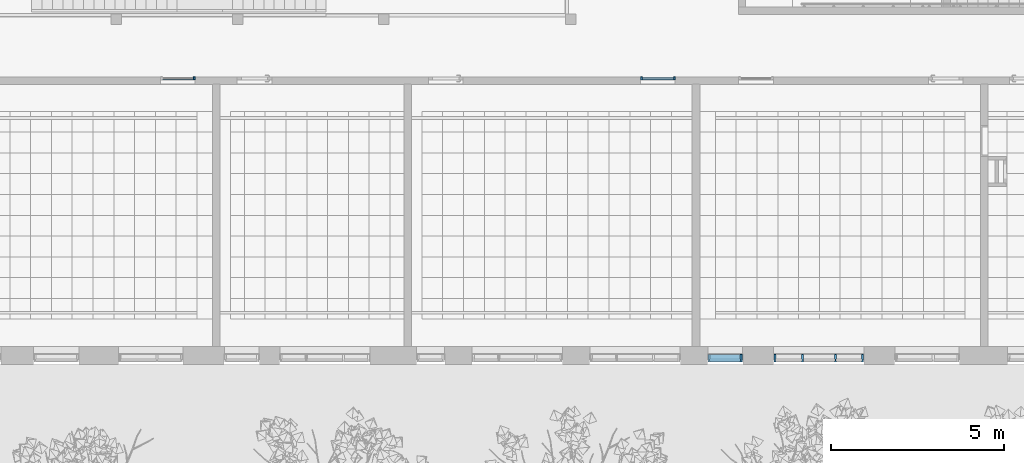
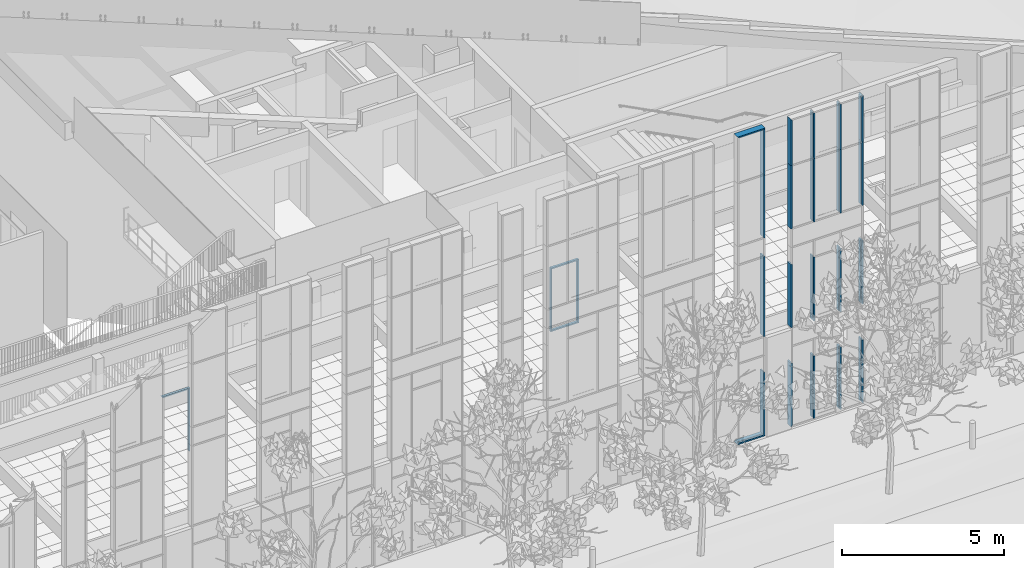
# One storey, part 25 of 246: 28 members, 4 elements without a shape of their own.
"""IFC2X3 building model written with IfcOpenShell, lengths in millimetres."""

from ifc_helpers import new_model, entity, si_unit, converted_unit, derived_unit, money_unit, direction, frame, origin_with_axes, place, context, subcontext, project, spatial, faceted_brep, source, transform, mapped, material, type_object, element, aggregate, save


model = new_model("IFC2X3")

# Units and contexts
model_context = context("Model", 3, precision=0.01, world=origin_with_axes(), true_north=direction((0.0, 1.0)))
body_context = subcontext(model_context, "Body", "Model", "MODEL_VIEW")
ifc_project = project(units=[si_unit("LENGTHUNIT", "METRE", prefix="MILLI"), si_unit("AREAUNIT", "SQUARE_METRE"), si_unit("VOLUMEUNIT", "CUBIC_METRE"), converted_unit("PLANEANGLEUNIT", "DEGREE", entity("IfcPlaneAngleMeasure", 0.0174532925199), si_unit("PLANEANGLEUNIT", "RADIAN"), dimensions=[0, 0, 0, 0, 0, 0, 0]), si_unit("SOLIDANGLEUNIT", "STERADIAN"), money_unit("EUR"), converted_unit("TIMEUNIT", "Year", entity("IfcTimeMeasure", 31556926.0), si_unit("TIMEUNIT", "SECOND"), dimensions=[0, 0, 1, 0, 0, 0, 0]), si_unit("MASSUNIT", "GRAM", prefix="KILO"), si_unit("THERMODYNAMICTEMPERATUREUNIT", "DEGREE_CELSIUS"), si_unit("LUMINOUSINTENSITYUNIT", "LUMEN"), si_unit("ENERGYUNIT", "JOULE", prefix="MEGA"), derived_unit("THERMALCONDUCTANCEUNIT", [(si_unit("POWERUNIT", "WATT"), 1), (si_unit("LENGTHUNIT", "METRE"), -1), (si_unit("THERMODYNAMICTEMPERATUREUNIT", "KELVIN"), -1)]), derived_unit("SPECIFICHEATCAPACITYUNIT", [(si_unit("ENERGYUNIT", "JOULE"), 1), (si_unit("MASSUNIT", "GRAM", prefix="KILO"), -1), (si_unit("THERMODYNAMICTEMPERATUREUNIT", "KELVIN"), -1)]), derived_unit("MASSDENSITYUNIT", [(si_unit("MASSUNIT", "GRAM", prefix="KILO"), 1), (si_unit("VOLUMEUNIT", "CUBIC_METRE"), -1)])], contexts=[model_context])

# Site, building, storey
site_placement = place(None, origin_with_axes())
site = spatial("IfcSite", under=ifc_project, at=site_placement, Name="L.Koidula tn 11b", CompositionType="ELEMENT")
building_placement = place(site_placement, origin_with_axes())
building = spatial("IfcBuilding", under=site, at=building_placement, Name="Rakvere Riigigümnaasium", CompositionType="ELEMENT")
storey_placement = place(building_placement, origin_with_axes())
storey = spatial("IfcBuildingStorey", under=building, at=storey_placement, Name="1.korrus 0,00", CompositionType="ELEMENT", Elevation=0.0)

# Curtain wall, member
curtain_wall_type = type_object("IfcCurtainWallType", Name="Curtain Wall Type", PredefinedType="NOTDEFINED")
curtain_wall_1_placement = place(storey_placement, frame((75600.000125, 5111.45334637, -1.61944652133e-05), z_axis=(0.0, 0.0, 1.0), x_axis=(1.0, 0.0, 0.0)))
curtain_wall_1 = element("IfcCurtainWall", 1, at=curtain_wall_1_placement, inside=storey, type_object=curtain_wall_type, Name="KLF-05-4B")
ifc_material_1 = material(Name="Alumiiniumprofiil (RAL 7021)")
member_type_1 = type_object("IfcMemberType", Name="Boundary Frame 50 x 222", PredefinedType="MULLION")
shared_shape_1 = source(origin_with_axes(), body_context, "Body", "Brep", [
    faceted_brep([(37.0, -32.5, 2375.00000025), (37.0, 32.5, 2375.00000025), (50.0, 32.5, 2375.00000025), (50.0, 53.0, 2375.00000025), (0.0, 53.0, 2375.00000025), (0.0, -169.0, 2375.00000025), (50.0, -169.0, 2375.00000025), (50.0, -32.5, 2375.00000025), (37.0, -32.5, -2.4712543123e-07), (37.0, 32.5, -2.4712543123e-07), (50.0, 32.5, -2.47125653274e-07), (50.0, 53.0, -2.47125653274e-07), (0.0, 53.0, -2.47125653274e-07), (0.0, -169.0, -2.47125653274e-07), (50.0, -169.0, -2.47125653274e-07), (50.0, -32.5, -2.47125653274e-07)], [[[0, 1, 2, 3, 4, 5, 6, 7]], [[1, 0, 8, 9]], [[10, 2, 1, 9]], [[2, 10, 11, 3]], [[12, 4, 3, 11]], [[13, 5, 4, 12]], [[14, 6, 5, 13]], [[15, 7, 6, 14]], [[0, 7, 15, 8]], [[8, 15, 14, 13, 12, 11, 10, 9]]]),
])
member_1_placement = place(curtain_wall_1_placement, frame((490.000170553, 0.0, 7465.0), z_axis=(-3.60066379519e-08, 0.0, 1.0), x_axis=(-1.0, 0.0, -3.60066379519e-08)))
member_1 = element("IfcMember", 2, at=member_1_placement, type_object=member_type_1, material=ifc_material_1, Name="KLF-11", ObjectType="MULLION", context=body_context, shape_type="MappedRepresentation", body=[
    mapped(shared_shape_1, transform((0.0, 0.0, 0.0))),
])

# Curtain wall, members
curtain_wall_2_placement = place(storey_placement, frame((78309.9973345, 5111.43278481, -1.61944633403e-05), z_axis=(0.0, 0.0, 1.0), x_axis=(1.0, 0.0, 0.0)))
curtain_wall_2 = element("IfcCurtainWall", 3, at=curtain_wall_2_placement, inside=storey, type_object=curtain_wall_type, Name="KLF-05-3A")
member_2_placement = place(curtain_wall_2_placement, frame((1279.99946018, -0.0202452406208, 7465.0), z_axis=(2.10851387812e-09, 0.0, 1.0), x_axis=(-0.999999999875, 1.58166009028e-05, 2.10851387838e-09)))
member_2 = element("IfcMember", 4, at=member_2_placement, type_object=member_type_1, material=ifc_material_1, Name="KLF-05-1A-Profiilid", ObjectType="MULLION", context=body_context, shape_type="MappedRepresentation", body=[
    mapped(shared_shape_1, transform((0.0, 0.0, 0.0))),
])
member_3_placement = place(curtain_wall_2_placement, frame((1279.99946018, -0.0202452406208, 3745.0), z_axis=(0.0, 0.0, 1.0), x_axis=(-0.999999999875, 1.58166009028e-05, 0.0)))
member_3 = element("IfcMember", 5, at=member_3_placement, type_object=member_type_1, material=ifc_material_1, Name="KLF-05-8A-Profiilid", ObjectType="MULLION", context=body_context, shape_type="MappedRepresentation", body=[
    mapped(shared_shape_1, transform((0.0, 0.0, 0.0))),
])
shared_shape_2 = source(origin_with_axes(), body_context, "Body", "Brep", [
    faceted_brep([(-37.0, -32.5, 2375.0), (-50.0, -32.5, 2375.0), (-50.0, -169.0, 2375.0), (0.0, -169.0, 2375.0), (0.0, 53.0, 2375.0), (-50.0, 53.0, 2375.0), (-50.0, 32.5, 2375.0), (-37.0, 32.5, 2375.0), (-37.0, -32.5, 0.0), (-50.0, -32.5, 0.0), (-50.0, -169.0, 0.0), (0.0, -169.0, 0.0), (0.0, 53.0, 0.0), (-50.0, 53.0, 0.0), (-50.0, 32.5, 0.0), (-37.0, 32.5, 0.0)], [[[0, 1, 2, 3, 4, 5, 6, 7]], [[0, 8, 9, 1]], [[9, 10, 2, 1]], [[10, 11, 3, 2]], [[11, 12, 4, 3]], [[12, 13, 5, 4]], [[6, 5, 13, 14]], [[14, 15, 7, 6]], [[7, 15, 8, 0]], [[8, 15, 14, 13, 12, 11, 10, 9]]]),
])
member_4_placement = place(curtain_wall_2_placement, frame((-1299.99999984, 0.0205615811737, 3745.0), z_axis=(0.0, 0.0, 1.0), x_axis=(-0.999999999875, 1.58166009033e-05, 0.0)))
member_4 = element("IfcMember", 6, at=member_4_placement, type_object=member_type_1, material=ifc_material_1, Name="KLF-05-0A-Profiilid", ObjectType="MULLION", context=body_context, shape_type="MappedRepresentation", body=[
    mapped(shared_shape_2, transform((0.0, 0.0, 0.0))),
])
member_5_placement = place(curtain_wall_2_placement, frame((-1299.99999984, 0.0205615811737, 7465.0), z_axis=(0.0, 0.0, 1.0), x_axis=(-0.999999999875, 1.58166009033e-05, 0.0)))
member_5 = element("IfcMember", 7, at=member_5_placement, type_object=member_type_1, material=ifc_material_1, Name="KLF-05-7A-Profiilid", ObjectType="MULLION", context=body_context, shape_type="MappedRepresentation", body=[
    mapped(shared_shape_2, transform((0.0, 0.0, 0.0))),
])

# Member
shared_shape_3 = source(origin_with_axes(), body_context, "Body", "Brep", [
    faceted_brep([(37.0, -32.5, 1712.99983191), (37.0, 32.5, 1712.99983191), (50.0, 32.5, 1699.99983191), (50.0, 53.0, 1699.99983191), (0.0, 53.0, 1749.99983191), (0.0, -169.0, 1749.99983191), (50.0, -169.0, 1699.99983191), (50.0, -32.5, 1699.99983191), (37.0, -32.5, -2.47125875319e-07), (37.0, 32.5, -2.47125875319e-07), (50.0, 32.5, -2.47125764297e-07), (50.0, 53.0, -2.47125764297e-07), (0.0, 53.0, -2.47125764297e-07), (0.0, -169.0, -2.47125764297e-07), (50.0, -169.0, -2.47125764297e-07), (50.0, -32.5, -2.47125764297e-07)], [[[0, 1, 2, 3, 4, 5, 6, 7]], [[1, 0, 8, 9]], [[10, 2, 1, 9]], [[2, 10, 11, 3]], [[12, 4, 3, 11]], [[13, 5, 4, 12]], [[14, 6, 5, 13]], [[15, 7, 6, 14]], [[0, 7, 15, 8]], [[8, 15, 14, 13, 12, 11, 10, 9]]]),
])
member_6_placement = place(curtain_wall_1_placement, frame((490.000085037, 0.0, 9840.0), z_axis=(3.63216120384e-08, 0.0, 1.0), x_axis=(-1.0, 0.0, 3.63216120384e-08)))
member_6 = element("IfcMember", 8, at=member_6_placement, type_object=member_type_1, material=ifc_material_1, Name="KLF-12", ObjectType="MULLION", context=body_context, shape_type="MappedRepresentation", body=[
    mapped(shared_shape_3, transform((0.0, 0.0, 0.0))),
])

member_7_placement = place(curtain_wall_2_placement, frame((1279.99946519, -0.0202452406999, 9840.0), z_axis=(3.89462512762e-08, 0.0, 1.0), x_axis=(-0.999999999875, 1.58166009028e-05, 3.89462512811e-08)))
member_7 = element("IfcMember", 9, at=member_7_placement, type_object=member_type_1, material=ifc_material_1, Name="KLF-05-2A-Profiilid", ObjectType="MULLION", context=body_context, shape_type="MappedRepresentation", body=[
    mapped(shared_shape_3, transform((0.0, 0.0, 0.0))),
])

member_type_2 = type_object("IfcMemberType", Name="Mullion Frame 50 x 222", PredefinedType="MULLION")
shared_shape_4 = source(origin_with_axes(), body_context, "Body", "Brep", [
    faceted_brep([(-12.0, -32.5, 2375.0), (-25.0, -32.5, 2375.0), (-25.0, -169.0, 2375.0), (25.0, -169.0, 2375.0), (25.0, -32.5, 2375.0), (12.0, -32.5, 2375.0), (12.0, 32.5, 2375.0), (25.0, 32.5, 2375.0), (25.0, 53.0, 2375.0), (-25.0, 53.0, 2375.0), (-25.0, 32.5, 2375.0), (-12.0, 32.5, 2375.0), (-12.0, -32.5, -25.0), (-25.0, -32.5, -25.0), (-25.0, -169.0, -25.0), (25.0, -169.0, -25.0), (25.0, -32.5, -25.0), (12.0, -32.5, -25.0), (12.0, 32.5, -25.0), (25.0, 32.5, -25.0), (25.0, 53.0, -25.0), (-25.0, 53.0, -25.0), (-25.0, 32.5, -25.0), (-12.0, 32.5, -25.0)], [[[0, 1, 2, 3, 4, 5, 6, 7, 8, 9, 10, 11]], [[1, 0, 12, 13]], [[1, 13, 14, 2]], [[3, 2, 14, 15]], [[4, 3, 15, 16]], [[4, 16, 17, 5]], [[5, 17, 18, 6]], [[7, 6, 18, 19]], [[19, 20, 8, 7]], [[9, 8, 20, 21]], [[22, 10, 9, 21]], [[11, 10, 22, 23]], [[0, 11, 23, 12]], [[23, 22, 21, 20, 19, 18, 17, 16, 15, 14, 13, 12]]]),
])
member_8_placement = place(curtain_wall_2_placement, frame((474.999999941, -0.00751288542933, 7465.0), z_axis=(0.0, 0.0, 1.0), x_axis=(-0.999999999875, 1.58166009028e-05, 0.0)))
member_8 = element("IfcMember", 10, at=member_8_placement, type_object=member_type_2, material=ifc_material_1, Name="KLF-05-4A-Profiilid", ObjectType="MULLION", context=body_context, shape_type="MappedRepresentation", body=[
    mapped(shared_shape_4, transform((0.0, 0.0, 0.0))),
])

member_9_placement = place(curtain_wall_2_placement, frame((-474.999999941, 0.00751288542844, 3745.0), z_axis=(0.0, 0.0, 1.0), x_axis=(-0.999999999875, 1.58166009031e-05, 0.0)))
member_9 = element("IfcMember", 11, at=member_9_placement, type_object=member_type_2, material=ifc_material_1, Name="KLF-05-3A-Profiilid", ObjectType="MULLION", context=body_context, shape_type="MappedRepresentation", body=[
    mapped(shared_shape_4, transform((0.0, 0.0, 0.0))),
])

member_10_placement = place(curtain_wall_2_placement, frame((-474.999999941, 0.00751288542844, 7465.0), z_axis=(0.0, 0.0, 1.0), x_axis=(-0.999999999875, 1.58166009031e-05, 0.0)))
member_10 = element("IfcMember", 12, at=member_10_placement, type_object=member_type_2, material=ifc_material_1, Name="KLF-05-3A-Profiilid", ObjectType="MULLION", context=body_context, shape_type="MappedRepresentation", body=[
    mapped(shared_shape_4, transform((0.0, 0.0, 0.0))),
])

member_11_placement = place(curtain_wall_2_placement, frame((474.999999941, -0.00751288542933, 3745.0), z_axis=(0.0, 0.0, 1.0), x_axis=(-0.999999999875, 1.58166009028e-05, 0.0)))
member_11 = element("IfcMember", 13, at=member_11_placement, type_object=member_type_2, material=ifc_material_1, Name="KLF-05-3A-Profiilid", ObjectType="MULLION", context=body_context, shape_type="MappedRepresentation", body=[
    mapped(shared_shape_4, transform((0.0, 0.0, 0.0))),
])

shared_shape_5 = source(origin_with_axes(), body_context, "Body", "Brep", [
    faceted_brep([(37.0, -32.5, 2400.0), (37.0, 32.5, 2400.0), (50.0, 32.5, 2400.0), (50.0, 53.0, 2400.0), (0.0, 53.0, 2400.0), (0.0, -169.0, 2400.0), (50.0, -169.0, 2400.0), (50.0, -32.5, 2400.0), (37.0, -32.5, 37.0), (37.0, 32.5, 37.0), (50.0, 32.5, 50.0), (50.0, 53.0, 50.0), (0.0, 53.0, 0.0), (0.0, -169.0, 0.0), (50.0, -169.0, 50.0), (50.0, -32.5, 50.0)], [[[0, 1, 2, 3, 4, 5, 6, 7]], [[1, 0, 8, 9]], [[10, 2, 1, 9]], [[2, 10, 11, 3]], [[4, 3, 11, 12]], [[5, 4, 12, 13]], [[6, 5, 13, 14]], [[15, 7, 6, 14]], [[0, 7, 15, 8]], [[8, 15, 14, 13, 12, 11, 10, 9]]]),
])
member_12_placement = place(curtain_wall_1_placement, frame((490.000170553, 0.0, 0.0), z_axis=(0.0, 0.0, 1.0), x_axis=(-1.0, 0.0, 0.0)))
member_12 = element("IfcMember", 14, at=member_12_placement, type_object=member_type_1, material=ifc_material_1, Name="KLF-06", ObjectType="MULLION", context=body_context, shape_type="MappedRepresentation", body=[
    mapped(shared_shape_5, transform((0.0, 0.0, 0.0))),
])

member_13_placement = place(curtain_wall_2_placement, frame((1279.99946018, -0.0202452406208, 0.0), z_axis=(0.0, 0.0, 1.0), x_axis=(-0.999999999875, 1.58166009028e-05, 0.0)))
member_13 = element("IfcMember", 15, at=member_13_placement, type_object=member_type_1, material=ifc_material_1, Name="KLF-05-5A-Profiilid", ObjectType="MULLION", context=body_context, shape_type="MappedRepresentation", body=[
    mapped(shared_shape_5, transform((0.0, 0.0, 0.0))),
])

shared_shape_6 = source(origin_with_axes(), body_context, "Body", "Brep", [
    faceted_brep([(-12.0, -32.5, 1699.99983191), (-25.0, -32.5, 1699.99983191), (-25.0, -169.0, 1699.99983191), (25.0, -169.0, 1699.99983191), (25.0, -32.5, 1699.99983191), (12.0, -32.5, 1699.99983191), (12.0, 32.5, 1699.99983191), (25.0, 32.5, 1699.99983191), (25.0, 53.0, 1699.99983191), (-25.0, 53.0, 1699.99983191), (-25.0, 32.5, 1699.99983191), (-12.0, 32.5, 1699.99983191), (-12.0, -32.5, 0.0), (-25.0, -32.5, 0.0), (-25.0, -169.0, 0.0), (25.0, -169.0, 0.0), (25.0, -32.5, 0.0), (12.0, -32.5, 0.0), (12.0, 32.5, 0.0), (25.0, 32.5, 0.0), (25.0, 53.0, 0.0), (-25.0, 53.0, 0.0), (-25.0, 32.5, 0.0), (-12.0, 32.5, 0.0)], [[[0, 1, 2, 3, 4, 5, 6, 7, 8, 9, 10, 11]], [[1, 0, 12, 13]], [[1, 13, 14, 2]], [[3, 2, 14, 15]], [[4, 3, 15, 16]], [[4, 16, 17, 5]], [[5, 17, 18, 6]], [[7, 6, 18, 19]], [[19, 20, 8, 7]], [[9, 8, 20, 21]], [[22, 10, 9, 21]], [[11, 10, 22, 23]], [[0, 11, 23, 12]], [[23, 22, 21, 20, 19, 18, 17, 16, 15, 14, 13, 12]]]),
])
member_14_placement = place(curtain_wall_2_placement, frame((-474.999999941, 0.00751288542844, 9840.0), z_axis=(0.0, 0.0, 1.0), x_axis=(-0.999999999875, 1.58166009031e-05, 0.0)))
member_14 = element("IfcMember", 16, at=member_14_placement, type_object=member_type_2, material=ifc_material_1, Name="KLF-05-9A-Profiilid", ObjectType="MULLION", context=body_context, shape_type="MappedRepresentation", body=[
    mapped(shared_shape_6, transform((0.0, 0.0, 0.0))),
])

member_15_placement = place(curtain_wall_2_placement, frame((474.999999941, -0.00751288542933, 9840.0), z_axis=(0.0, 0.0, 1.0), x_axis=(-0.999999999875, 1.58166009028e-05, 0.0)))
member_15 = element("IfcMember", 17, at=member_15_placement, type_object=member_type_2, material=ifc_material_1, Name="KLF-05-0A-Profiilid", ObjectType="MULLION", context=body_context, shape_type="MappedRepresentation", body=[
    mapped(shared_shape_6, transform((0.0, 0.0, 0.0))),
])

shared_shape_7 = source(origin_with_axes(), body_context, "Body", "Brep", [
    faceted_brep([(-37.0, -32.5, 2400.0), (-50.0, -32.5, 2400.0), (-50.0, -169.0, 2400.0), (0.0, -169.0, 2400.0), (0.0, 53.0, 2400.0), (-50.0, 53.0, 2400.0), (-50.0, 32.5, 2400.0), (-37.0, 32.5, 2400.0), (-37.0, -32.5, 37.0), (-50.0, -32.5, 50.0), (-50.0, -169.0, 50.0), (0.0, -169.0, 0.0), (0.0, 53.0, 0.0), (-50.0, 53.0, 50.0), (-50.0, 32.5, 50.0), (-37.0, 32.5, 37.0)], [[[0, 1, 2, 3, 4, 5, 6, 7]], [[0, 8, 9, 1]], [[9, 10, 2, 1]], [[2, 10, 11, 3]], [[3, 11, 12, 4]], [[4, 12, 13, 5]], [[6, 5, 13, 14]], [[14, 15, 7, 6]], [[7, 15, 8, 0]], [[8, 15, 14, 13, 12, 11, 10, 9]]]),
])
member_16_placement = place(curtain_wall_2_placement, frame((-1299.99999984, 0.0205615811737, 0.0), z_axis=(0.0, 0.0, 1.0), x_axis=(-0.999999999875, 1.58166009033e-05, 0.0)))
member_16 = element("IfcMember", 18, at=member_16_placement, type_object=member_type_1, material=ifc_material_1, Name="KLF-05-1A-Profiilid", ObjectType="MULLION", context=body_context, shape_type="MappedRepresentation", body=[
    mapped(shared_shape_7, transform((0.0, 0.0, 0.0))),
])

shared_shape_8 = source(origin_with_axes(), body_context, "Body", "Brep", [
    faceted_brep([(-37.0, -32.5, 1712.99983191), (-50.0, -32.5, 1699.99983191), (-50.0, -169.0, 1699.99983191), (0.0, -169.0, 1749.99983191), (0.0, 53.0, 1749.99983191), (-50.0, 53.0, 1699.99983191), (-50.0, 32.5, 1699.99983191), (-37.0, 32.5, 1712.99983191), (-37.0, -32.5, 0.0), (-50.0, -32.5, 0.0), (-50.0, -169.0, 0.0), (0.0, -169.0, 0.0), (0.0, 53.0, 0.0), (-50.0, 53.0, 0.0), (-50.0, 32.5, 0.0), (-37.0, 32.5, 0.0)], [[[0, 1, 2, 3, 4, 5, 6, 7]], [[0, 8, 9, 1]], [[9, 10, 2, 1]], [[10, 11, 3, 2]], [[11, 12, 4, 3]], [[12, 13, 5, 4]], [[6, 5, 13, 14]], [[14, 15, 7, 6]], [[7, 15, 8, 0]], [[8, 15, 14, 13, 12, 11, 10, 9]]]),
])
member_17_placement = place(curtain_wall_2_placement, frame((-1299.99999984, 0.0205615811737, 9840.0), z_axis=(0.0, 0.0, 1.0), x_axis=(-0.999999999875, 1.58166009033e-05, 0.0)))
member_17 = element("IfcMember", 19, at=member_17_placement, type_object=member_type_1, material=ifc_material_1, Name="KLF-05-6A-Profiilid", ObjectType="MULLION", context=body_context, shape_type="MappedRepresentation", body=[
    mapped(shared_shape_8, transform((0.0, 0.0, 0.0))),
])

shared_shape_9 = source(origin_with_axes(), body_context, "Body", "Brep", [
    faceted_brep([(37.0, -32.5, 3015.0), (37.0, 32.5, 3015.0), (50.0, 32.5, 3015.0), (50.0, 53.0, 3015.0), (0.0, 53.0, 3015.0), (0.0, -169.0, 3015.0), (50.0, -169.0, 3015.0), (50.0, -32.5, 3015.0), (37.0, -32.5, 0.0), (37.0, 32.5, 0.0), (50.0, 32.5, 0.0), (50.0, 53.0, 0.0), (0.0, 53.0, 0.0), (0.0, -169.0, 0.0), (50.0, -169.0, 0.0), (50.0, -32.5, 0.0)], [[[0, 1, 2, 3, 4, 5, 6, 7]], [[1, 0, 8, 9]], [[10, 2, 1, 9]], [[2, 10, 11, 3]], [[12, 4, 3, 11]], [[13, 5, 4, 12]], [[14, 6, 5, 13]], [[15, 7, 6, 14]], [[0, 7, 15, 8]], [[8, 15, 14, 13, 12, 11, 10, 9]]]),
])
member_18_placement = place(curtain_wall_1_placement, frame((490.000170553, 0.0, 3745.0), z_axis=(0.0, 0.0, 1.0), x_axis=(-1.0, 0.0, 0.0)))
member_18 = element("IfcMember", 20, at=member_18_placement, type_object=member_type_1, material=ifc_material_1, Name="KLF-09", ObjectType="MULLION", context=body_context, shape_type="MappedRepresentation", body=[
    mapped(shared_shape_9, transform((0.0, 0.0, 0.0))),
])

shared_shape_10 = source(origin_with_axes(), body_context, "Body", "Brep", [
    faceted_brep([(-12.0, -32.5, 2400.0), (-25.0, -32.5, 2400.0), (-25.0, -169.0, 2400.0), (25.0, -169.0, 2400.0), (25.0, -32.5, 2400.0), (12.0, -32.5, 2400.0), (12.0, 32.5, 2400.0), (25.0, 32.5, 2400.0), (25.0, 53.0, 2400.0), (-25.0, 53.0, 2400.0), (-25.0, 32.5, 2400.0), (-12.0, 32.5, 2400.0), (-12.0, -32.5, 50.0), (-25.0, -32.5, 50.0), (-25.0, -169.0, 50.0), (25.0, -169.0, 50.0), (25.0, -32.5, 50.0), (12.0, -32.5, 50.0), (12.0, 32.5, 50.0), (25.0, 32.5, 50.0), (25.0, 53.0, 50.0), (-25.0, 53.0, 50.0), (-25.0, 32.5, 50.0), (-12.0, 32.5, 50.0)], [[[0, 1, 2, 3, 4, 5, 6, 7, 8, 9, 10, 11]], [[1, 0, 12, 13]], [[1, 13, 14, 2]], [[2, 14, 15, 3]], [[4, 3, 15, 16]], [[4, 16, 17, 5]], [[5, 17, 18, 6]], [[7, 6, 18, 19]], [[19, 20, 8, 7]], [[8, 20, 21, 9]], [[22, 10, 9, 21]], [[11, 10, 22, 23]], [[0, 11, 23, 12]], [[23, 22, 21, 20, 19, 18, 17, 16, 15, 14, 13, 12]]]),
])
member_19_placement = place(curtain_wall_2_placement, frame((-474.999999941, 0.00751288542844, 0.0), z_axis=(0.0, 0.0, 1.0), x_axis=(-0.999999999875, 1.58166009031e-05, 0.0)))
member_19 = element("IfcMember", 21, at=member_19_placement, type_object=member_type_2, material=ifc_material_1, Name="KLF-05-3A-Profiilid", ObjectType="MULLION", context=body_context, shape_type="MappedRepresentation", body=[
    mapped(shared_shape_10, transform((0.0, 0.0, 0.0))),
])

member_20_placement = place(curtain_wall_2_placement, frame((474.999999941, -0.00751288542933, 0.0), z_axis=(0.0, 0.0, 1.0), x_axis=(-0.999999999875, 1.58166009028e-05, 0.0)))
member_20 = element("IfcMember", 22, at=member_20_placement, type_object=member_type_2, material=ifc_material_1, Name="KLF-05-3A-Profiilid", ObjectType="MULLION", context=body_context, shape_type="MappedRepresentation", body=[
    mapped(shared_shape_10, transform((0.0, 0.0, 0.0))),
])

aggregate(curtain_wall_2, [member_19, member_20, member_8, member_9, member_10, member_11, member_16, member_4, member_5, member_2, member_3, member_13, member_17, member_14, member_15, member_7])

# Curtain wall, member
curtain_wall_3_placement = place(storey_placement, frame((59810.0162357, 13240.4508952, 0.0), z_axis=(0.0, 0.0, 1.0), x_axis=(1.0, 0.0, 0.0)))
curtain_wall_3 = element("IfcCurtainWall", 23, at=curtain_wall_3_placement, inside=storey, type_object=curtain_wall_type, Name="SKLF-07")
ifc_material_2 = material(Name="Klaasvill")
member_type_3 = type_object("IfcMemberType", Name="Boundary Frame 50 x 80", PredefinedType="MULLION")
shared_shape_11 = source(origin_with_axes(), body_context, "Body", "Brep", [
    faceted_brep([(-50.0, 40.0, 50.0), (-50.0, -40.0, 50.0), (-50.0, -40.0, 950.000004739), (-50.0, 40.0, 950.000004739), (0.0, 40.0, 0.0), (0.0, -40.0, 0.0), (0.0, -40.0, 1000.00000474), (0.0, 40.0, 1000.00000474)], [[[0, 1, 2, 3]], [[1, 0, 4, 5]], [[1, 5, 6, 2]], [[2, 6, 7, 3]], [[4, 0, 3, 7]], [[5, 4, 7, 6]]]),
])
member_21_placement = place(curtain_wall_3_placement, frame((500.00000237, 0.0, 2400.0), z_axis=(-1.0, 0.0, 0.0), x_axis=(0.0, 0.0, -1.0)))
member_21 = element("IfcMember", 24, at=member_21_placement, type_object=member_type_3, material=ifc_material_2, Name="SKLF-28-raam", ObjectType="MULLION", context=body_context, shape_type="MappedRepresentation", body=[
    mapped(shared_shape_11, transform((0.0, 0.0, 0.0), x_axis=(-1.0, 0.0, 0.0), y_axis=(0.0, -1.0, 0.0), z_axis=(0.0, 0.0, 1.0))),
])

# Curtain wall, members
curtain_wall_4_placement = place(storey_placement, frame((73660.0150839, 13240.4508952, 0.0), z_axis=(0.0, 0.0, 1.0), x_axis=(1.0, 0.0, 0.0)))
curtain_wall_4 = element("IfcCurtainWall", 25, at=curtain_wall_4_placement, inside=storey, type_object=curtain_wall_type, Name="SKLF-08")
member_22_placement = place(curtain_wall_4_placement, frame((-500.00000237, 0.0, 0.0), z_axis=(1.0, 0.0, 0.0), x_axis=(0.0, 0.0, 1.0)))
member_22 = element("IfcMember", 26, at=member_22_placement, type_object=member_type_3, material=ifc_material_2, Name="SKLF-26-raam", ObjectType="MULLION", context=body_context, shape_type="MappedRepresentation", body=[
    mapped(shared_shape_11, transform((0.0, 0.0, 0.0), x_axis=(-1.0, 0.0, 0.0), y_axis=(0.0, -1.0, 0.0), z_axis=(0.0, 0.0, 1.0))),
])
member_23_placement = place(curtain_wall_4_placement, frame((500.00000237, 0.0, 2400.0), z_axis=(-1.0, 0.0, 0.0), x_axis=(0.0, 0.0, -1.0)))
member_23 = element("IfcMember", 27, at=member_23_placement, type_object=member_type_3, material=ifc_material_2, Name="SKLF-28-raam", ObjectType="MULLION", context=body_context, shape_type="MappedRepresentation", body=[
    mapped(shared_shape_11, transform((0.0, 0.0, 0.0), x_axis=(-1.0, 0.0, 0.0), y_axis=(0.0, -1.0, 0.0), z_axis=(0.0, 0.0, 1.0))),
])

# Member
shared_shape_12 = source(origin_with_axes(), body_context, "Body", "Brep", [
    faceted_brep([(-50.0, 40.0, 50.0), (-50.0, -40.0, 50.0), (-50.0, -40.0, 2350.0), (-50.0, 40.0, 2350.0), (0.0, 40.0, 0.0), (0.0, -40.0, 0.0), (0.0, -40.0, 2400.0), (0.0, 40.0, 2400.0)], [[[0, 1, 2, 3]], [[1, 0, 4, 5]], [[1, 5, 6, 2]], [[2, 6, 7, 3]], [[4, 0, 3, 7]], [[5, 4, 7, 6]]]),
])
member_24_placement = place(curtain_wall_3_placement, frame((500.00000237, 0.0, 0.0), z_axis=(0.0, 0.0, 1.0), x_axis=(-1.0, 0.0, 0.0)))
member_24 = element("IfcMember", 28, at=member_24_placement, type_object=member_type_3, material=ifc_material_2, Name="SKLF-27-raam", ObjectType="MULLION", context=body_context, shape_type="MappedRepresentation", body=[
    mapped(shared_shape_12, transform((0.0, 0.0, 0.0), x_axis=(-1.0, 0.0, 0.0), y_axis=(0.0, -1.0, 0.0), z_axis=(0.0, 0.0, 1.0))),
])

aggregate(curtain_wall_3, [member_21, member_24])

member_25_placement = place(curtain_wall_4_placement, frame((-500.00000237, 0.0, 2400.0), z_axis=(0.0, 0.0, -1.0), x_axis=(1.0, 0.0, 0.0)))
member_25 = element("IfcMember", 29, at=member_25_placement, type_object=member_type_3, material=ifc_material_2, Name="SKLF-29-raam", ObjectType="MULLION", context=body_context, shape_type="MappedRepresentation", body=[
    mapped(shared_shape_12, transform((0.0, 0.0, 0.0), x_axis=(-1.0, 0.0, 0.0), y_axis=(0.0, -1.0, 0.0), z_axis=(0.0, 0.0, 1.0))),
])

member_26_placement = place(curtain_wall_4_placement, frame((500.00000237, 0.0, 0.0), z_axis=(0.0, 0.0, 1.0), x_axis=(-1.0, 0.0, 0.0)))
member_26 = element("IfcMember", 30, at=member_26_placement, type_object=member_type_3, material=ifc_material_2, Name="SKLF-27-raam", ObjectType="MULLION", context=body_context, shape_type="MappedRepresentation", body=[
    mapped(shared_shape_12, transform((0.0, 0.0, 0.0), x_axis=(-1.0, 0.0, 0.0), y_axis=(0.0, -1.0, 0.0), z_axis=(0.0, 0.0, 1.0))),
])

aggregate(curtain_wall_4, [member_22, member_25, member_26, member_23])

shared_shape_13 = source(origin_with_axes(), body_context, "Body", "Brep", [
    faceted_brep([(37.0, -32.5, 943.000298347), (37.0, 32.5, 943.000298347), (50.0, 32.5, 930.000298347), (50.0, 53.0, 930.000298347), (0.0, 53.0, 980.000298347), (0.0, -169.0, 980.000298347), (50.0, -169.0, 930.000298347), (50.0, -32.5, 930.000298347), (37.0, -32.5, 37.0), (37.0, 32.5, 37.0), (50.0, 32.5, 50.0), (50.0, 53.0, 50.0), (0.0, 53.0, 0.0), (0.0, -169.0, 0.0), (50.0, -169.0, 50.0), (50.0, -32.5, 50.0)], [[[0, 1, 2, 3, 4, 5, 6, 7]], [[1, 0, 8, 9]], [[10, 2, 1, 9]], [[2, 10, 11, 3]], [[4, 3, 11, 12]], [[5, 4, 12, 13]], [[6, 5, 13, 14]], [[15, 7, 6, 14]], [[0, 7, 15, 8]], [[8, 15, 14, 13, 12, 11, 10, 9]]]),
])
member_27_placement = place(curtain_wall_1_placement, frame((-490.000127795, 0.0, 0.0), z_axis=(1.0, 0.0, 0.0), x_axis=(0.0, 0.0, 1.0)))
member_27 = element("IfcMember", 31, at=member_27_placement, type_object=member_type_1, material=ifc_material_1, Name="KLF-05", ObjectType="MULLION", context=body_context, shape_type="MappedRepresentation", body=[
    mapped(shared_shape_13, transform((0.0, 0.0, 0.0))),
])

member_28_placement = place(curtain_wall_1_placement, frame((490.0001486, 0.0, 11590.0000411), z_axis=(-1.0, 0.0, 0.0), x_axis=(0.0, 0.0, -1.0)))
member_28 = element("IfcMember", 32, at=member_28_placement, type_object=member_type_1, material=ifc_material_1, Name="KLF-13", ObjectType="MULLION", context=body_context, shape_type="MappedRepresentation", body=[
    mapped(shared_shape_13, transform((0.0, 0.0, 0.0))),
])

aggregate(curtain_wall_1, [member_27, member_1, member_18, member_12, member_28, member_6])

save(model, "model.ifc")
